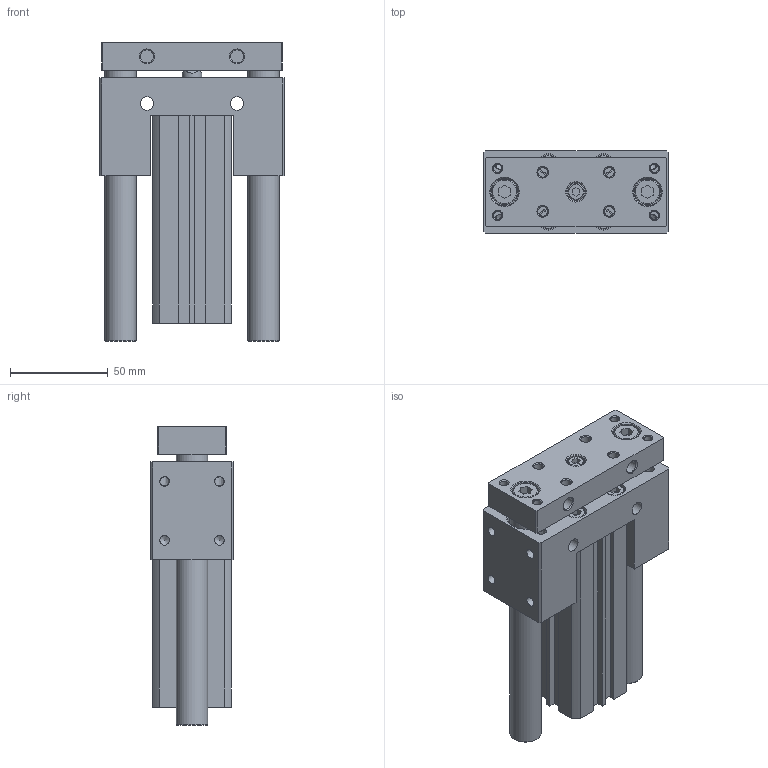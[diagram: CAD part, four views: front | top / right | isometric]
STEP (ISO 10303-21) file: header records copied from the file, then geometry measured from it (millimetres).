
FILE_DESCRIPTION((''),'2;1');
FILE_NAME('I:\3D電子目錄\氣缸\JCB\JCB\JCB25\JCB25x85.stp','2007-08-21T19:21:28',('Administrator'),(''),'Autodesk Inventor 11','Autodesk Inventor 11','');
FILE_SCHEMA(('AUTOMOTIVE_DESIGN { 1 0 10303 214 1 1 1 1 }'));
Length unit declared in the file: millimetre
Products named in the file (1): JCB25
Bounding box: 94 x 42 x 152.5 mm (x, y, z)
Volume: 343646.5 mm3; surface area: 95377.2 mm2
Topology: 5 solids, 5 shells, 323 faces, 740 edges, 483 vertices
Faces by surface type: plane 172, bspline 61, cylinder 47, cone 35, torus 8
Full cylindrical faces by diameter (mm): 1.5 x2, 4.917 x4, 5.1 x4, 6.647 x2, 8 x8, 8.5 x1, 10 x5, 11 x1, 13 x2, 16 x2, 17 x2, 18 x2, 28 x4, 29.4 x2
Entity records: 8980 total; most frequent: CARTESIAN_POINT 2309, DIRECTION 1332, ORIENTED_EDGE 1160, EDGE_CURVE 580, EDGE_LOOP 544, AXIS2_PLACEMENT_3D 493, VERTEX_POINT 454, VECTOR 346
